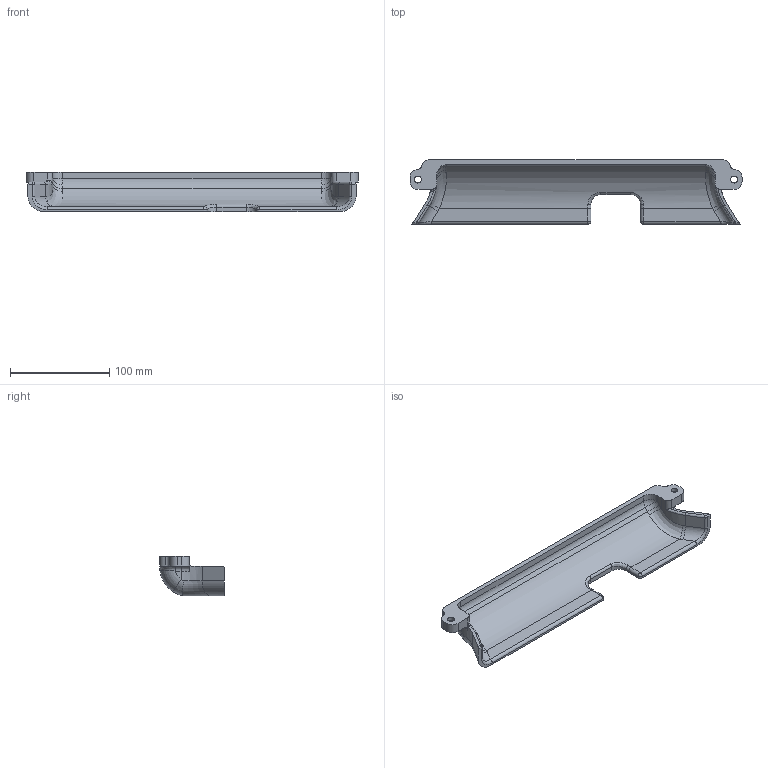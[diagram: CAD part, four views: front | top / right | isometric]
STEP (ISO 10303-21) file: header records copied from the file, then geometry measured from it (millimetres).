
FILE_DESCRIPTION(/* description */ ('STEP AP242','CAx-IF Rec.Pracs.---Representation and Presentation of Product Manufacturing Information (PMI)---4.0---2014-10-13','CAx-IF Rec.Pracs.---3D Tessellated Geometry---0.4---2014-09-14','2;1'),/* implementation_level */ '2;1');
FILE_NAME(/* name */ '62716772b093fa5eb72ed338',/* time_stamp */ '2022-05-03T17:33:39+00:00',/* author */ (''),/* organization */ (''),/* preprocessor_version */ 'ST-DEVELOPER v18.101',/* originating_system */ ' ',/* authorisation */ ' ');
FILE_SCHEMA (('AP242_MANAGED_MODEL_BASED_3D_ENGINEERING_MIM_LF { 1 0 10303 442 1 1 4 }'));
Length unit declared in the file: metre
Products named in the file (1): Part 1
Bounding box: 334 x 65 x 40 mm (x, y, z)
Volume: 205949.1 mm3; surface area: 59897.3 mm2
Topology: 1 solids, 1 shells, 119 faces, 305 edges, 185 vertices
Faces by surface type: cylinder 45, plane 42, torus 17, bspline 11, sphere 4
Full cylindrical faces by diameter (mm): 7 x2
Entity records: 3883 total; most frequent: CARTESIAN_POINT 1035, DIRECTION 601, ORIENTED_EDGE 592, EDGE_CURVE 296, AXIS2_PLACEMENT_3D 228, VERTEX_POINT 183, LINE 145, VECTOR 145
